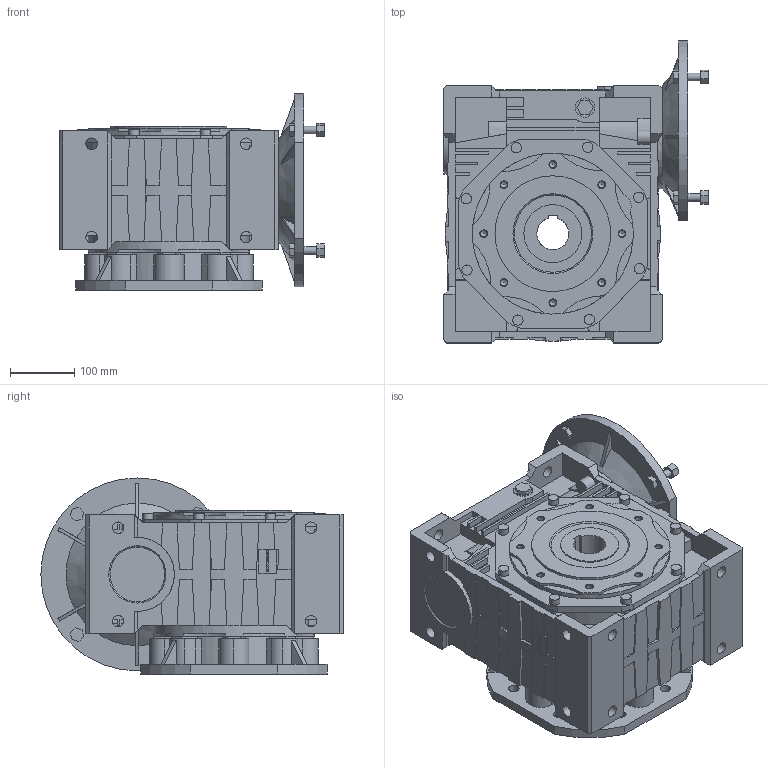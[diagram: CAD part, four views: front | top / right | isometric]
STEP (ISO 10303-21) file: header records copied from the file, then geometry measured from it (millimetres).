
FILE_DESCRIPTION(('FreeCAD Model'),'2;1');
FILE_NAME('Open CASCADE Shape Model','2025-12-02T17:07:08',(''),(''), 'Open CASCADE STEP processor 7.6','FreeCAD','Unknown');
FILE_SCHEMA(('AUTOMOTIVE_DESIGN { 1 0 10303 214 1 1 1 1 }'));
Length unit declared in the file: millimetre
Products named in the file (3): Unnamed1; 3D STEP FA-130-151_001; NMRV 150_001
Assembly tree (2 placements, depth 2):
  Unnamed1
    3D STEP FA-130-151_001
    NMRV 150_001
Bounding box: 412 x 470 x 305 mm (x, y, z)
Volume: 21876522.6 mm3; surface area: 1365007.3 mm2
Topology: 4 solids, 5 shells, 1045 faces, 2860 edges, 1894 vertices
Faces by surface type: plane 751, cylinder 240, cone 52, revolution 2
Full cylindrical faces by diameter (mm): 3.74 x3, 10.106 x16, 12 x4, 16 x8, 18 x18, 26 x1, 30 x4, 59 x1, 60 x1, 75 x1, 80 x1, 81 x1, 90 x2, 100 x1, 180 x2, 230 x1, 250 x1
Entity records: 33095 total; most frequent: CARTESIAN_POINT 6114, ORIENTED_EDGE 5688, DIRECTION 5477, EDGE_CURVE 2844, LINE 1961, VECTOR 1961, VERTEX_POINT 1894, AXIS2_PLACEMENT_3D 1757
